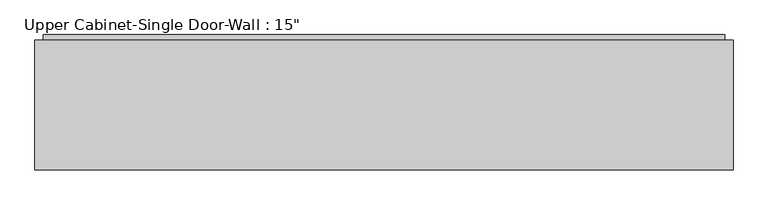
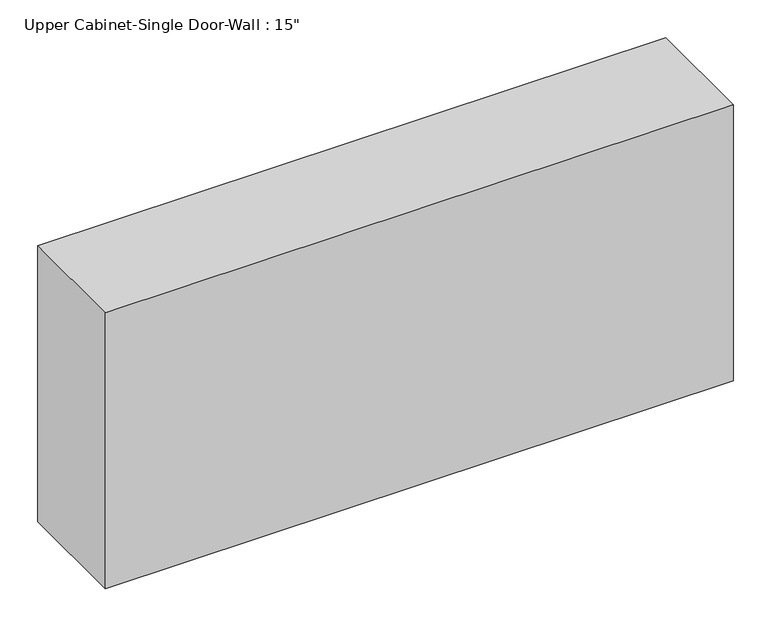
"""IFC4 building model written with IfcOpenShell, lengths in millimetres: furniture geometry."""

from ifc_helpers import new_model, si_unit, frame, origin, place, context, project, spatial, polyline, outline, extrude, faceted_brep, source, transform, mapped, element, save


def furniture_096bb673(model_context):
    return source(origin(), model_context, "Body", "SolidModel", [
        faceted_brep([(-1379.7585056, 82.55, 2133.6), (-1379.7585056, 82.55, 1371.6), (258.3711628, 82.55, 1371.6), (258.3711628, 82.55, 2133.6), (-1379.7585056, 387.35, 2133.6), (258.3711628, 387.35, 2133.6), (258.3711628, 387.35, 1371.6), (-1379.7585056, 387.35, 1371.6), (-1360.7085056, 387.35, 2114.55), (-1360.7085056, 387.35, 1390.65), (239.3211628, 387.35, 1390.65), (239.3211628, 387.35, 2114.55), (239.3211628, 101.6, 2114.55), (-1360.7085056, 101.6, 2114.55), (239.3211628, 101.6, 1390.65), (-1360.7085056, 101.6, 1390.65)], [[[0, 1, 2, 3]], [[4, 5, 6, 7], [8, 9, 10, 11]], [[1, 0, 4, 7]], [[2, 1, 7, 6]], [[3, 2, 6, 5]], [[0, 3, 5, 4]], [[8, 11, 12, 13]], [[11, 10, 14, 12]], [[10, 9, 15, 14]], [[9, 8, 13, 15]], [[13, 12, 14, 15]]]),
        extrude(outline(polyline([(-1360.7085056, 400.05), (239.3211628, 400.05), (239.3211628, 368.3), (-1360.7085056, 368.3), (-1360.7085056, 400.05)])), frame((0.0, 0.0, 1390.65), z_axis=(0.0, 0.0, 1.0), x_axis=(1.0, 0.0, 0.0)), (0.0, 0.0, 1.0), 723.9),
    ])


if __name__ == "__main__":
    model = new_model("IFC4")
    model_context = context("Model", 3, world=origin())
    ifc_project = project(units=[si_unit("LENGTHUNIT", "METRE", prefix="MILLI")], contexts=[model_context])
    site = spatial("IfcSite", under=ifc_project)
    building = spatial("IfcBuilding", under=site)
    placement = place(None, origin())
    furniture_shape = furniture_096bb673(model_context)
    element("IfcFurniture", 1, ObjectType="Upper Cabinet-Single Door-Wall : 15\"", at=placement, inside=building, context=model_context, shape_type="MappedRepresentation", body=[
        mapped(furniture_shape, transform((0.0, 0.0, 0.0), x_axis=(1.0, 0.0, 0.0), y_axis=(0.0, 1.0, 0.0), z_axis=(0.0, 0.0, 1.0))),
    ])
    save(model, "model.ifc")
